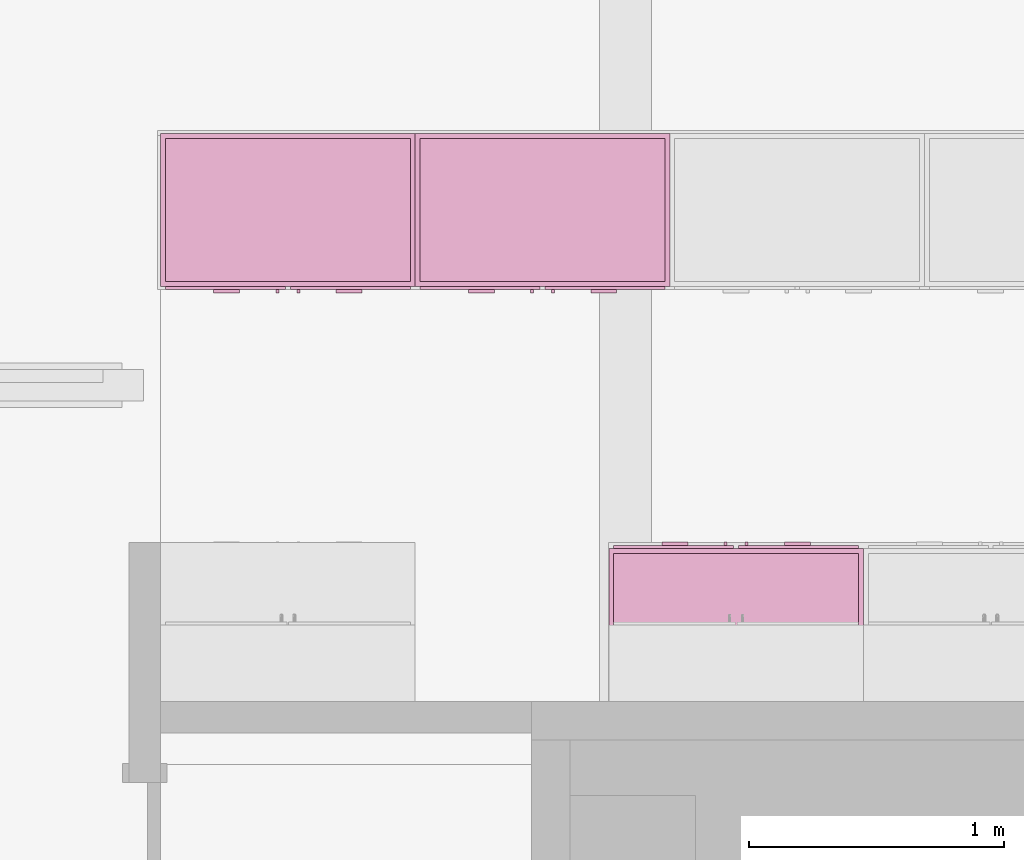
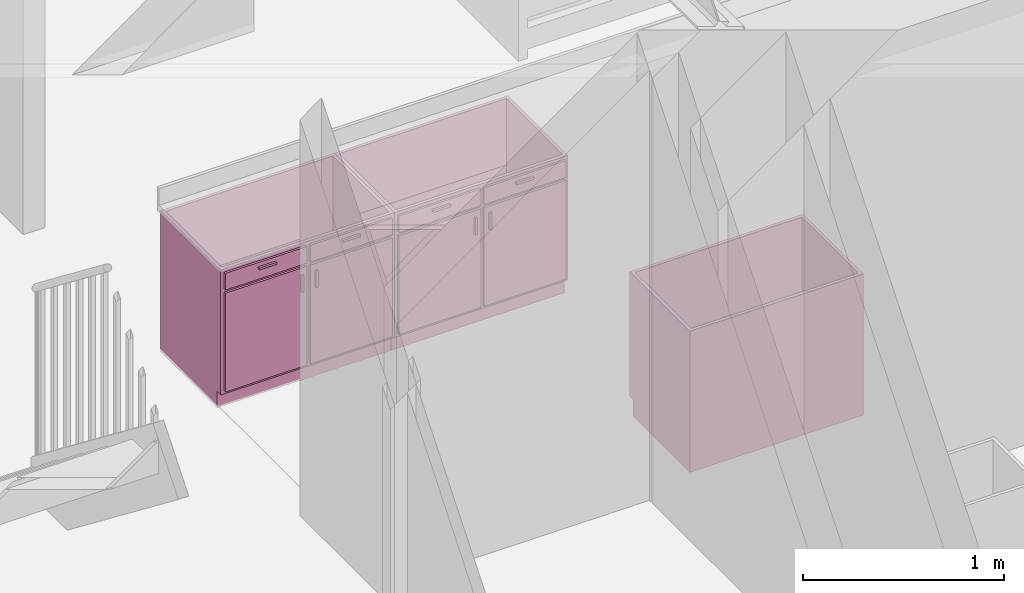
# One storey, part 14 of 18: 3 furnishings.
"""IFC4 building model written with IfcOpenShell, lengths in metres."""

from ifc_helpers import new_model, entity, si_unit, converted_unit, frame, origin, place, context, project, spatial, face_set, surface_model, source, transform, mapped, type_object, type_shapes, element, save


model = new_model("IFC4")

# Units and contexts
model_context = context("Model", 3, precision=1e-09, world=origin())
plan_context = context("Plan", 3, precision=1e-09, world=origin())
ifc_project = project(units=[si_unit("LENGTHUNIT", "METRE"), si_unit("AREAUNIT", "SQUARE_METRE"), si_unit("VOLUMEUNIT", "CUBIC_METRE"), converted_unit("PLANEANGLEUNIT", "DEGREE", entity("IfcRatioMeasure", 0.01745329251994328), si_unit("PLANEANGLEUNIT", "RADIAN"), dimensions=[0, 0, 0, 0, 0, 0, 0]), si_unit("TIMEUNIT", "SECOND")], contexts=[model_context, plan_context])

# Site, building, storey, space
site_placement = place(None, origin())
site = spatial("IfcSite", under=ifc_project, at=site_placement, Name="Default", CompositionType="ELEMENT")
building_placement = place(site_placement, origin())
building = spatial("IfcBuilding", under=site, at=building_placement, CompositionType="ELEMENT")
storey_placement = place(building_placement, origin())
storey = spatial("IfcBuildingStorey", under=building, at=storey_placement, Name="Level 1", CompositionType="ELEMENT", Elevation=0.0)
space_placement = place(storey_placement, origin())
space = spatial("IfcSpace", under=storey, at=space_placement, Name="B103", CompositionType="ELEMENT", PredefinedType="SPACE")

# Furnishings
furniture_type = type_object("IfcFurnitureType", Name="1000mm", AssemblyPlace="NOTDEFINED")
shared_shape = source(origin(), model_context, "Body", "SurfaceModel", [
    surface_model("IfcFaceBasedSurfaceModel", [(0.9809499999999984, 0.04445000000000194, 0.8600000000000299), (0.9809499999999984, 0.04445000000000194, 0.0999999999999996), (0.01905000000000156, 0.04445000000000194, 0.0999999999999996), (0.01905000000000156, 0.04445000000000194, 0.8600000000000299), (1.0, 0.02540000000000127, 0.8600000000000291), (0.0, 0.02540000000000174, 0.8600000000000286), (1.0, 0.02540000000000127, 0.0999999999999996), (0.0, 0.02540000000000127, 0.09999999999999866), (0.01905000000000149, 0.606349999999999, 0.8600000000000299), (0.01905000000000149, 0.606349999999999, 0.09999999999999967), (0.01905000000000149, 0.06040000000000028, 0.0999999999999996), (0.0, 0.6253999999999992, 0.8600000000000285), (0.0, 0.6254000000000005, 0.0), (0.0, 0.06040000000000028, 0.0), (0.0, 0.06040000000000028, 0.09999999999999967), (0.9809499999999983, 0.6063499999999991, 0.8600000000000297), (0.9809499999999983, 0.6063499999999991, 0.09999999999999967), (1.0, 0.6253999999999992, 0.8600000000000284), (1.0, 0.6253999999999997, 0.0), (0.9809499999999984, 0.06040000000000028, 0.09999999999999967), (1.0, 0.06040000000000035, 0.09999999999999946), (1.0, 0.06040000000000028, 0.0), (0.3103250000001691, 0.0, 0.815550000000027), (0.3103250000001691, 0.0, 0.8028500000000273), (0.2087250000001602, 0.0, 0.8028500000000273), (0.2087250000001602, 0.0, 0.815550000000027), (0.7912750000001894, 0.0, 0.815550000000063), (0.7912750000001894, 0.0, 0.8028500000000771), (0.6896750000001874, 0.0, 0.8028500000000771), (0.6896750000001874, 0.0, 0.815550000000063), (0.4650750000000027, 0.0, 0.6822000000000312), (0.4650750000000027, 0.0, 0.5806000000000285), (0.4523750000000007, 0.0, 0.5806000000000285), (0.4523750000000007, 0.0, 0.6822000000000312), (0.5476249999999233, 0.0, 0.6822000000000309), (0.5476249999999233, 0.0, 0.5806000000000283), (0.5349249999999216, 0.0, 0.5806000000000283), (0.5349249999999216, 0.0, 0.6822000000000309), (0.3103250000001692, 0.01270000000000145, 0.815550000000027), (0.3103250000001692, 0.01270000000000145, 0.8028500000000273), (0.2087250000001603, 0.01270000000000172, 0.8028500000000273), (0.2087250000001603, 0.01270000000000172, 0.815550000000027), (0.7912750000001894, 0.01269999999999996, 0.815550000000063), (0.7912750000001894, 0.01269999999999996, 0.8028500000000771), (0.6896750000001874, 0.01270000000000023, 0.8028500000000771), (0.6896750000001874, 0.01270000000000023, 0.815550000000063), (0.4650750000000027, 0.0127000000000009, 0.6822000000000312), (0.4650750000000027, 0.0127000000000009, 0.5806000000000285), (0.4523750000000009, 0.0127000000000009, 0.5806000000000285), (0.4523750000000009, 0.0127000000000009, 0.6822000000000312), (0.5476249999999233, 0.01270000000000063, 0.6822000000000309), (0.5476249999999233, 0.01270000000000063, 0.5806000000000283), (0.5349249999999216, 0.01270000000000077, 0.5806000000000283), (0.5349249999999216, 0.01270000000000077, 0.6822000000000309), (0.4904749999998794, 0.0127000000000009, 0.840950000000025), (0.4904749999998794, 0.0127000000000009, 0.7393500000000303), (0.01905000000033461, 0.01270000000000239, 0.7393500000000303), (0.01905000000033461, 0.01270000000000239, 0.840950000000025), (0.9809500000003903, 0.01269999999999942, 0.8409500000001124), (0.9809500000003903, 0.01269999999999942, 0.7393500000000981), (0.509524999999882, 0.0127000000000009, 0.7393500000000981), (0.509524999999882, 0.0127000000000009, 0.8409500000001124), (0.4904749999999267, 0.0127000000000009, 0.7203000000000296), (0.4904749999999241, 0.0127000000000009, 0.119049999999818), (0.01905000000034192, 0.01270000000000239, 0.119049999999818), (0.01905000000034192, 0.01270000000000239, 0.7203000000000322), (0.9809500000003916, 0.01269999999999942, 0.7203000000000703), (0.9809500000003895, 0.01269999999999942, 0.1190499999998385), (0.5095249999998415, 0.0127000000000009, 0.1190499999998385), (0.5095249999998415, 0.0127000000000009, 0.7203000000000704), (0.4904749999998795, 0.02540000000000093, 0.840950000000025), (0.4904749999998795, 0.02540000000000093, 0.7393500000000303), (0.01905000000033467, 0.02540000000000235, 0.7393500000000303), (0.01905000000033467, 0.02540000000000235, 0.840950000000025), (0.9809500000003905, 0.02539999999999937, 0.8409500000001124), (0.9809500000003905, 0.02539999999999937, 0.7393500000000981), (0.5095249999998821, 0.02540000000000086, 0.7393500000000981), (0.5095249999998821, 0.02540000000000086, 0.8409500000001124), (0.4904749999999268, 0.02540000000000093, 0.7203000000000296), (0.4904749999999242, 0.02540000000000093, 0.119049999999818), (0.01905000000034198, 0.02540000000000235, 0.119049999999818), (0.01905000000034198, 0.02540000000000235, 0.7203000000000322), (0.9809500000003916, 0.02539999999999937, 0.7203000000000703), (0.9809500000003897, 0.02539999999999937, 0.1190499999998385), (0.5095249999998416, 0.02540000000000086, 0.1190499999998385), (0.5095249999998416, 0.02540000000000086, 0.7203000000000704), (0.9809499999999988, 0.6063499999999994, 0.1190499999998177), (0.9809499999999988, 0.04445000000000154, 0.1190499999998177), (0.01905000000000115, 0.04445000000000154, 0.1190499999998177), (0.01905000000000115, 0.6063499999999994, 0.1190499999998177), (0.9809499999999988, 0.6063499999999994, 0.09999999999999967), (0.9809499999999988, 0.04445000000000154, 0.09999999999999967), (0.01905000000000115, 0.04445000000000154, 0.09999999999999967), (0.01905000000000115, 0.6063499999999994, 0.09999999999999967)], [face_set([[[0, 1, 2, 3]], [[0, 4, 5, 3]], [[4, 6, 7, 5]], [[2, 1, 6, 7]], [[3, 8, 9, 10, 2]], [[5, 11, 8, 3]], [[7, 5, 11, 12, 13, 14]], [[2, 7, 14, 10]], [[8, 15, 16, 9]], [[11, 17, 15, 8]], [[12, 11, 17, 18]], [[1, 19, 16, 15, 0]], [[0, 15, 17, 4]], [[4, 6, 20, 21, 18, 17]], [[6, 1, 19, 20]], [[10, 9, 16, 19]], [[18, 21, 13, 12]], [[13, 14, 10, 19, 20, 21]]]), face_set([[[22, 23, 24, 25]], [[26, 27, 28, 29]], [[30, 31, 32, 33]], [[34, 35, 36, 37]], [[38, 39, 40, 41]], [[42, 43, 44, 45]], [[46, 47, 48, 49]], [[50, 51, 52, 53]], [[25, 41, 38, 22]], [[24, 40, 41, 25]], [[23, 24, 40, 39]], [[22, 23, 39, 38]], [[29, 45, 42, 26]], [[28, 44, 45, 29]], [[27, 28, 44, 43]], [[26, 27, 43, 42]], [[33, 49, 46, 30]], [[32, 48, 49, 33]], [[31, 32, 48, 47]], [[30, 31, 47, 46]], [[37, 53, 50, 34]], [[36, 52, 53, 37]], [[35, 36, 52, 51]], [[34, 35, 51, 50]]]), face_set([[[54, 55, 56, 57]], [[58, 59, 60, 61]], [[62, 63, 64, 65]], [[66, 67, 68, 69]], [[70, 71, 72, 73]], [[74, 75, 76, 77]], [[78, 79, 80, 81]], [[82, 83, 84, 85]], [[57, 73, 70, 54]], [[56, 57, 73, 72]], [[55, 56, 72, 71]], [[54, 55, 71, 70]], [[61, 77, 74, 58]], [[60, 76, 77, 61]], [[59, 60, 76, 75]], [[58, 59, 75, 74]], [[65, 81, 78, 62]], [[64, 65, 81, 80]], [[63, 64, 80, 79]], [[62, 63, 79, 78]], [[69, 85, 82, 66]], [[68, 84, 85, 69]], [[67, 68, 84, 83]], [[66, 67, 83, 82]]]), face_set([[[86, 87, 88, 89]], [[90, 91, 92, 93]], [[89, 86, 90, 93]], [[88, 89, 93, 92]], [[87, 91, 92, 88]], [[86, 87, 91, 90]]])]),
])
type_shapes(furniture_type, [shared_shape])
furnishing_placement = place(space_placement, frame((5.333999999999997, -6.804599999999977, 0.0), z_axis=(0.0, 0.0, 1.0), x_axis=(-1.0, 0.0, 0.0)))
element("IfcFurnishingElement", 1, at=furnishing_placement, inside=space, type_object=furniture_type, Name="M_Base Cabinet-Double Door & 2 Drawer:1000mm:1000mm", ObjectType="1000mm", context=model_context, shape_type="MappedRepresentation", body=[
    mapped(shared_shape, transform((0.0, 0.0, 0.0), scale=1.0)),
])
for number, where in (
    (2, (2.574000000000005, -5.825400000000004, 0.0)),
    (3, (3.574000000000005, -5.825400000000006, 0.0)),
):
    element("IfcFurnishingElement", number, at=place(space_placement, frame(where)), inside=space, type_object=furniture_type, Name="M_Base Cabinet-Double Door & 2 Drawer:1000mm:1000mm", ObjectType="1000mm", context=model_context, shape_type="MappedRepresentation", body=[
        mapped(shared_shape, transform((0.0, 0.0, 0.0), scale=1.0)),
    ])

save(model, "model.ifc")
